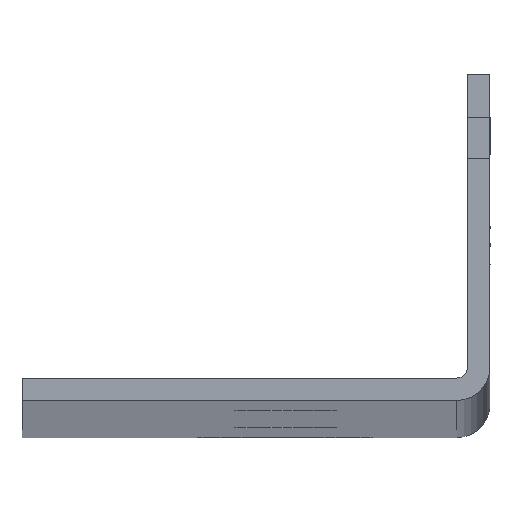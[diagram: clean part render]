
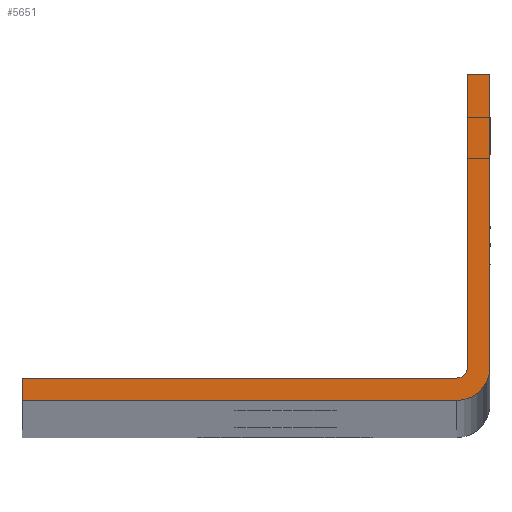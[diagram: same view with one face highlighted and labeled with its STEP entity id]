
A CAD part, top view. The second image highlights one B-rep face of the part: STEP entity #5651.
In plain terms, the highlighted planar face has unit normal (0, 0, 1).
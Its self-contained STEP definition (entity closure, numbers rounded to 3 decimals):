
#333=LINE('',#8792,#573);
#382=LINE('',#9045,#622);
#383=LINE('',#9049,#623);
#384=LINE('',#9051,#624);
#385=LINE('',#9055,#625);
#386=LINE('',#9057,#626);
#573=VECTOR('',#6997,1000.);
#622=VECTOR('',#7110,1000.);
#623=VECTOR('',#7113,1000.);
#624=VECTOR('',#7114,1000.);
#625=VECTOR('',#7117,1000.);
#626=VECTOR('',#7118,1000.);
#1109=ORIENTED_EDGE('',*,*,#2532,.F.);
#1110=ORIENTED_EDGE('',*,*,#2533,.F.);
#1111=ORIENTED_EDGE('',*,*,#2437,.F.);
#1112=ORIENTED_EDGE('',*,*,#2534,.T.);
#1113=ORIENTED_EDGE('',*,*,#2535,.T.);
#1114=ORIENTED_EDGE('',*,*,#2536,.T.);
#1115=ORIENTED_EDGE('',*,*,#2537,.T.);
#1116=ORIENTED_EDGE('',*,*,#2538,.T.);
#2437=EDGE_CURVE('',#3153,#3154,#333,.T.);
#2532=EDGE_CURVE('',#3239,#3240,#382,.T.);
#2533=EDGE_CURVE('',#3154,#3239,#3719,.T.);
#2534=EDGE_CURVE('',#3153,#3241,#383,.T.);
#2535=EDGE_CURVE('',#3241,#3242,#384,.T.);
#2536=EDGE_CURVE('',#3242,#3243,#3720,.F.);
#2537=EDGE_CURVE('',#3243,#3244,#385,.T.);
#2538=EDGE_CURVE('',#3244,#3240,#386,.T.);
#3153=VERTEX_POINT('',#8793);
#3154=VERTEX_POINT('',#8794);
#3239=VERTEX_POINT('',#9046);
#3240=VERTEX_POINT('',#9047);
#3241=VERTEX_POINT('',#9050);
#3242=VERTEX_POINT('',#9052);
#3243=VERTEX_POINT('',#9054);
#3244=VERTEX_POINT('',#9056);
#3719=CIRCLE('',#6164,3.632);
#3720=CIRCLE('',#6165,1.219);
#4094=EDGE_LOOP('',(#1109,#1110,#1111,#1112,#1113,#1114,#1115,#1116));
#4906=FACE_BOUND('',#4094,.T.);
#5539=PLANE('',#6163);
#5651=ADVANCED_FACE('',(#4906),#5539,.T.);
#6163=AXIS2_PLACEMENT_3D('',#9044,#7108,#7109);
#6164=AXIS2_PLACEMENT_3D('',#9048,#7111,#7112);
#6165=AXIS2_PLACEMENT_3D('',#9053,#7115,#7116);
#6997=DIRECTION('',(0.,-1.,0.));
#7108=DIRECTION('',(0.,0.,1.));
#7109=DIRECTION('',(1.,0.,0.));
#7110=DIRECTION('',(-1.,0.,0.));
#7111=DIRECTION('',(0.,0.,-1.));
#7112=DIRECTION('',(0.,1.,0.));
#7113=DIRECTION('',(-1.,0.,0.));
#7114=DIRECTION('',(0.,-1.,0.));
#7115=DIRECTION('',(0.,0.,1.));
#7116=DIRECTION('',(1.,0.,0.));
#7117=DIRECTION('',(-1.,0.,0.));
#7118=DIRECTION('',(0.,-1.,0.));
#8792=CARTESIAN_POINT('',(25.4,2.171,1156.081));
#8793=CARTESIAN_POINT('',(25.4,35.408,1156.081));
#8794=CARTESIAN_POINT('',(25.4,3.632,1156.081));
#9044=CARTESIAN_POINT('',(25.4,2.413,1156.081));
#9045=CARTESIAN_POINT('',(25.4,0.,1156.081));
#9046=CARTESIAN_POINT('',(21.768,0.,1156.081));
#9047=CARTESIAN_POINT('',(-25.4,0.,1156.081));
#9048=CARTESIAN_POINT('',(21.768,3.632,1156.081));
#9049=CARTESIAN_POINT('',(25.4,35.408,1156.081));
#9050=CARTESIAN_POINT('',(22.987,35.408,1156.081));
#9051=CARTESIAN_POINT('',(22.987,2.171,1156.081));
#9052=CARTESIAN_POINT('',(22.987,3.632,1156.081));
#9053=CARTESIAN_POINT('',(21.768,3.632,1156.081));
#9054=CARTESIAN_POINT('',(21.768,2.413,1156.081));
#9055=CARTESIAN_POINT('',(25.4,2.413,1156.081));
#9056=CARTESIAN_POINT('',(-25.4,2.413,1156.081));
#9057=CARTESIAN_POINT('',(-25.4,2.413,1156.081));
